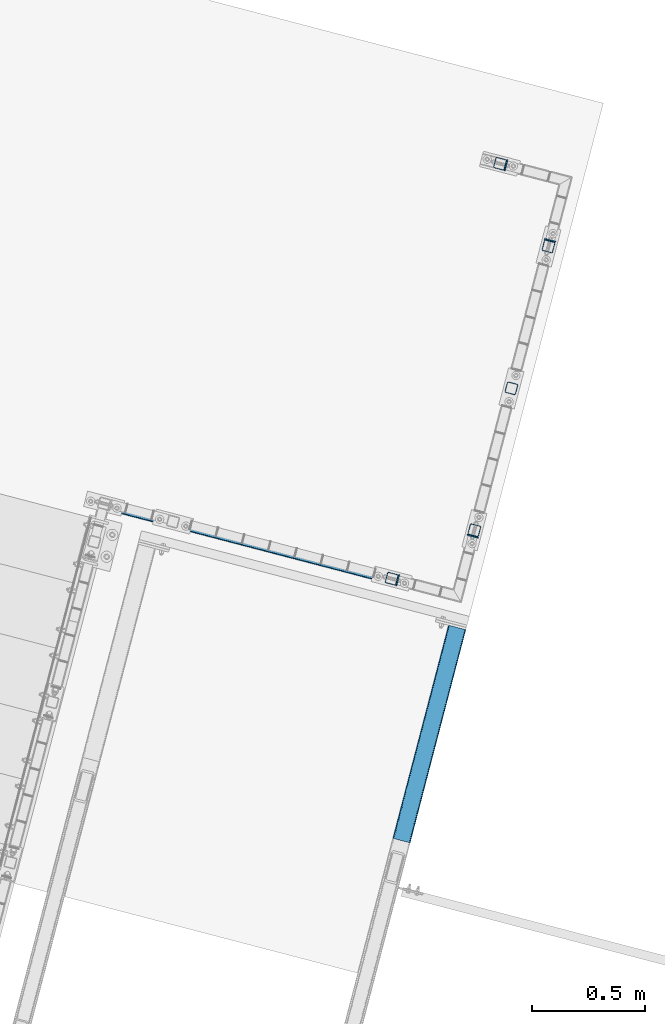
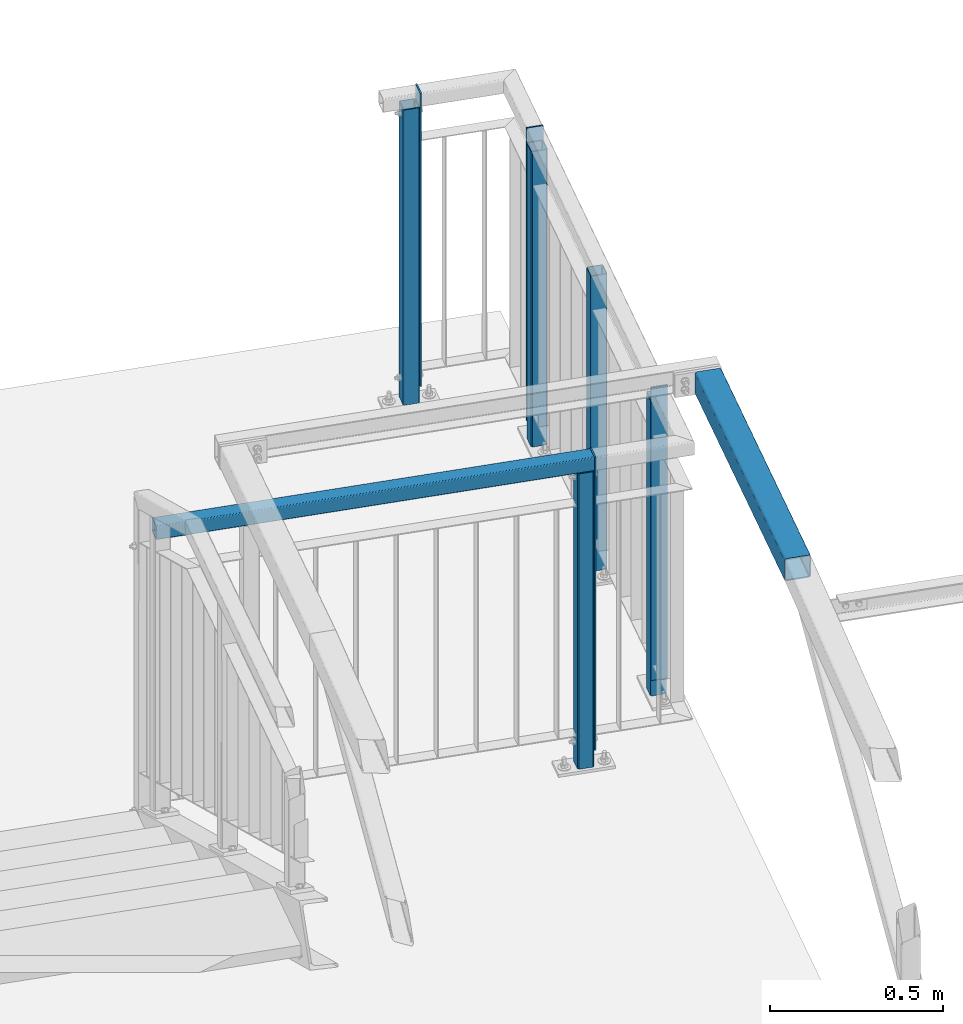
# One storey, part 52 of 169: 11 discrete accessories, 2 elements without a shape of their own.
"""IFC2X3 building model written with IfcOpenShell, lengths in millimetres."""

from ifc_helpers import new_model, si_unit, frame, origin_with_axes, origin_2d_with_axis, place, context, subcontext, project, spatial, polyline, hollow_rectangle, outline, extrude, clip, halfspace, material, type_object, element, aggregate, save


model = new_model("IFC2X3")

# Units and contexts
model_context = context("Model", 3, precision=1e-05, world=origin_with_axes())
body_context = subcontext(model_context, "Body", "Model", "MODEL_VIEW")
ifc_project = project(units=[si_unit("LENGTHUNIT", "METRE", prefix="MILLI"), si_unit("AREAUNIT", "SQUARE_METRE"), si_unit("VOLUMEUNIT", "CUBIC_METRE"), si_unit("MASSUNIT", "GRAM", prefix="KILO"), si_unit("TIMEUNIT", "SECOND"), si_unit("PLANEANGLEUNIT", "RADIAN"), si_unit("SOLIDANGLEUNIT", "STERADIAN"), si_unit("THERMODYNAMICTEMPERATUREUNIT", "DEGREE_CELSIUS"), si_unit("LUMINOUSINTENSITYUNIT", "LUMEN")], contexts=[model_context])

# Site, building, storey
site_placement = place(None, origin_with_axes())
site = spatial("IfcSite", under=ifc_project, at=site_placement, Name="Undefined", CompositionType="ELEMENT")
building_placement = place(site_placement, origin_with_axes())
building = spatial("IfcBuilding", under=site, at=building_placement, Name="Undefined", CompositionType="ELEMENT")
storey_placement = place(building_placement, origin_with_axes())
storey = spatial("IfcBuildingStorey", under=building, at=storey_placement, Name="Undefined", CompositionType="ELEMENT", Elevation=0.0)

# Assembly, discrete accessories
assembly_1_placement = place(storey_placement, origin_with_axes())
assembly_1 = element("IfcElementAssembly", 1, at=assembly_1_placement, inside=storey, Name="Steel Assembly", AssemblyPlace="NOTDEFINED", PredefinedType="RIGID_FRAME")
ifc_material = material(Name="STEEL/S235")
discrete_accessory_type_1 = type_object("IfcDiscreteAccessoryType", Name="BLACHA")
discrete_accessory_1_placement = place(assembly_1_placement, frame((-6978.9408524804, 20785.2009043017, 12633.418376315), z_axis=(0.252628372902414, 0.967563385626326, 0.0), x_axis=(-0.967563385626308, 0.252628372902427, -1.72000000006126e-07)))
discrete_accessory_1 = element("IfcDiscreteAccessory", 2, at=discrete_accessory_1_placement, type_object=discrete_accessory_type_1, material=ifc_material, Name="BLACHA", ObjectType="BL5*50", context=body_context, shape_type="SweptSolid", body=[
    extrude(outline(polyline([(0.0, 0.0), (50.0000000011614, 3.27418092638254e-11), (50.0000000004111, 1032.0), (2.92602635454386e-08, 1032.0), (0.0, 0.0)])), frame((6.80888809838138e-19, -2.87858853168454e-21, -2.49999999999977), z_axis=(0.0, 0.0, 1.0), x_axis=(1.0, 0.0, 0.0)), (0.0, 0.0, 1.0), 5.0),
])
discrete_accessory_2_placement = place(assembly_1_placement, frame((-7341.94790051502, 20572.507738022, 12633.418376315), z_axis=(0.967563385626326, -0.252628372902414, 0.0), x_axis=(0.252628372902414, 0.967563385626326, 0.0)))
discrete_accessory_2 = element("IfcDiscreteAccessory", 3, at=discrete_accessory_2_placement, type_object=discrete_accessory_type_1, material=ifc_material, Name="BLACHA", ObjectType="BL5*50", context=body_context, shape_type="SweptSolid", body=[
    extrude(outline(polyline([(0.0, 0.0), (50.0000000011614, 3.27418092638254e-11), (50.0000000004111, 1032.0), (2.92602635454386e-08, 1032.0), (0.0, 0.0)])), frame((6.80888809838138e-19, -2.87858853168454e-21, -2.49999999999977), z_axis=(0.0, 0.0, 1.0), x_axis=(1.0, 0.0, 0.0)), (0.0, 0.0, 1.0), 5.0),
])
discrete_accessory_3_placement = place(assembly_1_placement, frame((-6637.13233355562, 22094.3230903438, 12633.418376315), z_axis=(0.252628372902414, 0.967563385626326, 0.0), x_axis=(-0.967563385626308, 0.252628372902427, -1.72000000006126e-07)))
discrete_accessory_3 = element("IfcDiscreteAccessory", 4, at=discrete_accessory_3_placement, type_object=discrete_accessory_type_1, material=ifc_material, Name="BLACHA", ObjectType="BL5*50", context=body_context, shape_type="SweptSolid", body=[
    extrude(outline(polyline([(0.0, 0.0), (50.0000000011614, 3.27418092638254e-11), (50.0000000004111, 1032.0), (2.92602635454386e-08, 1032.0), (0.0, 0.0)])), frame((6.80888809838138e-19, -2.87858853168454e-21, -2.49999999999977), z_axis=(0.0, 0.0, 1.0), x_axis=(1.0, 0.0, 0.0)), (0.0, 0.0, 1.0), 5.0),
])
discrete_accessory_4_placement = place(assembly_1_placement, frame((-6849.82549973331, 22457.3301384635, 12633.418376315), z_axis=(-0.967563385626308, 0.252628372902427, -1.72000000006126e-07), x_axis=(-0.252628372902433, -0.967563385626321, 0.0)))
discrete_accessory_4 = element("IfcDiscreteAccessory", 5, at=discrete_accessory_4_placement, type_object=discrete_accessory_type_1, material=ifc_material, Name="BLACHA", ObjectType="BL5*50", context=body_context, shape_type="SweptSolid", body=[
    extrude(outline(polyline([(0.0, 0.0), (50.0000000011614, 3.27418092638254e-11), (50.0000000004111, 1032.0), (2.92602635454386e-08, 1032.0), (0.0, 0.0)])), frame((6.80888809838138e-19, -2.87858853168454e-21, -2.49999999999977), z_axis=(0.0, 0.0, 1.0), x_axis=(1.0, 0.0, 0.0)), (0.0, 0.0, 1.0), 5.0),
])

# Assembly, discrete accessory
assembly_2_placement = place(storey_placement, origin_with_axes())
assembly_2 = element("IfcElementAssembly", 6, at=assembly_2_placement, inside=storey, Name="Steel Assembly", AssemblyPlace="NOTDEFINED", PredefinedType="RIGID_FRAME")
discrete_accessory_type_2 = type_object("IfcDiscreteAccessoryType", Name="BEAM")
discrete_accessory_5_placement = place(assembly_2_placement, frame((-7318.65403919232, 19444.5105502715, 13950.417607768), z_axis=(-2.54700353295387e-10, 0.0, -1.0), x_axis=(0.252628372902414, 0.967563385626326, 0.0)))
discrete_accessory_5 = element("IfcDiscreteAccessory", 7, at=discrete_accessory_5_placement, type_object=discrete_accessory_type_2, material=ifc_material, Name="BEAM", ObjectType="SHS80*4", context=body_context, shape_type="Clipping", body=[
    clip(clip(extrude(hollow_rectangle(XDim=80.0, YDim=80.0, WallThickness=4.0, InnerFilletRadius=4.0, OuterFilletRadius=8.0, at=origin_2d_with_axis()), frame((974.832227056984, -3.58386474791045e-12, 0.0), z_axis=(-1.0, -3.46944695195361e-18, -1.38777878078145e-17), x_axis=(1.73472347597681e-18, -1.0, 0.0)), (0.0, 0.0, 1.0), 1014.34), halfspace(frame((974.832227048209, 5.05679054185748e-10, 40.0), z_axis=(-1.0, -3.46944695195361e-18, -1.38777878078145e-17), x_axis=(1.73472347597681e-18, -1.0, 0.0)), True)), halfspace(frame((1.02154190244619e-05, 0.00025891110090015, -40.0002588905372), z_axis=(-0.999688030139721, -1.62913579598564e-07, 0.0249768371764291), x_axis=(-1.25063525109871e-09, 0.999999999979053, 6.47253026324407e-06)), False)),
])
aggregate(assembly_2, [discrete_accessory_5])

# Discrete accessory
discrete_accessory_type_3 = type_object("IfcDiscreteAccessoryType", Name="PORĘCZ")
discrete_accessory_6_placement = place(assembly_1_placement, frame((-7338.05109963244, 20597.3283936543, 13640.4183763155), z_axis=(-0.252628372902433, -0.967563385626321, 0.0), x_axis=(-0.967563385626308, 0.252628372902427, -1.72000000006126e-07)))
discrete_accessory_6 = element("IfcDiscreteAccessory", 8, at=discrete_accessory_6_placement, type_object=discrete_accessory_type_3, material=ifc_material, Name="PORĘCZ", ObjectType="RHS50*3", context=body_context, shape_type="Clipping", body=[
    clip(extrude(hollow_rectangle(XDim=50.0, YDim=50.0, WallThickness=3.0, InnerFilletRadius=3.0, OuterFilletRadius=6.0, at=origin_2d_with_axis()), frame((1310.08209043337, 1.81898940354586e-12, 0.0), z_axis=(-1.0, -3.46944695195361e-18, -1.38777878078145e-17), x_axis=(1.73472347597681e-18, -1.0, 0.0)), (0.0, 0.0, 1.0), 1310.08), halfspace(frame((1310.08209043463, 1.81898940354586e-12, 999.999999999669), z_axis=(-1.0, -3.46944695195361e-18, -1.38777878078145e-17), x_axis=(1.73472347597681e-18, -1.0, 0.0)), True)),
])

discrete_accessory_type_4 = type_object("IfcDiscreteAccessoryType", Name="STANCHION")
discrete_accessory_7_placement = place(assembly_1_placement, frame((-6832.22567754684, 21446.077706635, 12555.4183763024), z_axis=(0.0, 0.0, 1.0), x_axis=(0.967563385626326, -0.252628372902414, 0.0)))
discrete_accessory_7 = element("IfcDiscreteAccessory", 9, at=discrete_accessory_7_placement, type_object=discrete_accessory_type_4, material=ifc_material, Name="STANCHION", ObjectType="SHS50*3", context=body_context, shape_type="Clipping", body=[
    clip(clip(extrude(hollow_rectangle(XDim=50.0, YDim=50.0, WallThickness=3.0, InnerFilletRadius=3.0, OuterFilletRadius=6.0, at=origin_2d_with_axis()), frame((0.0, 0.0, 1060.00000001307), z_axis=(-2.54700353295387e-10, 0.0, -1.0), x_axis=(0.0, 1.0, 0.0)), (0.0, 0.0, 1.0), 1040.0), halfspace(frame((999.999999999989, -2.80124368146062e-10, 1060.00000001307), z_axis=(-2.54700353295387e-10, 0.0, -1.0), x_axis=(0.0, 1.0, 0.0)), True)), halfspace(frame((-25.0000000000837, -4.72937244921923e-11, 20.0000001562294), z_axis=(0.0, 0.0, 1.0), x_axis=(0.0, 1.0, 0.0)), True)),
])

discrete_accessory_8_placement = place(assembly_1_placement, frame((-6996.18265672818, 20818.1246067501, 12555.4183763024), z_axis=(0.0, 0.0, 1.0), x_axis=(0.967563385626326, -0.252628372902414, 0.0)))
discrete_accessory_8 = element("IfcDiscreteAccessory", 10, at=discrete_accessory_8_placement, type_object=discrete_accessory_type_4, material=ifc_material, Name="STANCHION", ObjectType="SHS50*3", context=body_context, shape_type="Clipping", body=[
    clip(clip(extrude(hollow_rectangle(XDim=50.0, YDim=50.0, WallThickness=3.0, InnerFilletRadius=3.0, OuterFilletRadius=6.0, at=origin_2d_with_axis()), frame((0.0, 0.0, 1060.00000001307), z_axis=(-2.54700353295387e-10, 0.0, -1.0), x_axis=(0.0, 1.0, 0.0)), (0.0, 0.0, 1.0), 1040.0), halfspace(frame((999.999999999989, -2.80124368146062e-10, 1060.00000001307), z_axis=(-2.54700353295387e-10, 0.0, -1.0), x_axis=(0.0, 1.0, 0.0)), True)), halfspace(frame((-25.0000000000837, -4.72937244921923e-11, 20.0000001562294), z_axis=(0.0, 0.0, 1.0), x_axis=(0.0, 1.0, 0.0)), True)),
])

discrete_accessory_9_placement = place(assembly_1_placement, frame((-7362.24018429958, 20603.6441028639, 12555.4183763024), z_axis=(0.0, 0.0, 1.0), x_axis=(-0.252628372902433, -0.967563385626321, 0.0)))
discrete_accessory_9 = element("IfcDiscreteAccessory", 11, at=discrete_accessory_9_placement, type_object=discrete_accessory_type_4, material=ifc_material, Name="STANCHION", ObjectType="SHS50*3", context=body_context, shape_type="Clipping", body=[
    clip(clip(extrude(hollow_rectangle(XDim=50.0, YDim=50.0, WallThickness=3.0, InnerFilletRadius=3.0, OuterFilletRadius=6.0, at=origin_2d_with_axis()), frame((0.0, 0.0, 1060.00000001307), z_axis=(-2.54700353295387e-10, 0.0, -1.0), x_axis=(0.0, 1.0, 0.0)), (0.0, 0.0, 1.0), 1040.0), halfspace(frame((999.999999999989, -2.80124368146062e-10, 1060.00000001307), z_axis=(-2.54700353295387e-10, 0.0, -1.0), x_axis=(0.0, 1.0, 0.0)), True)), halfspace(frame((-25.0000000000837, -4.72937244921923e-11, 20.0000001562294), z_axis=(0.0, 0.0, 1.0), x_axis=(0.0, 1.0, 0.0)), True)),
])

discrete_accessory_10_placement = place(assembly_1_placement, frame((-6668.26869834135, 22074.0308065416, 12555.4183763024), z_axis=(0.0, 0.0, 1.0), x_axis=(0.967563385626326, -0.252628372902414, 0.0)))
discrete_accessory_10 = element("IfcDiscreteAccessory", 12, at=discrete_accessory_10_placement, type_object=discrete_accessory_type_4, material=ifc_material, Name="STANCHION", ObjectType="SHS50*3", context=body_context, shape_type="Clipping", body=[
    clip(clip(extrude(hollow_rectangle(XDim=50.0, YDim=50.0, WallThickness=3.0, InnerFilletRadius=3.0, OuterFilletRadius=6.0, at=origin_2d_with_axis()), frame((0.0, 0.0, 1060.00000001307), z_axis=(-2.54700353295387e-10, 0.0, -1.0), x_axis=(0.0, 1.0, 0.0)), (0.0, 0.0, 1.0), 1040.0), halfspace(frame((999.999999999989, -2.80124368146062e-10, 1060.00000001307), z_axis=(-2.54700353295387e-10, 0.0, -1.0), x_axis=(0.0, 1.0, 0.0)), True)), halfspace(frame((-25.0000000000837, -4.72937244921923e-11, 20.0000001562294), z_axis=(0.0, 0.0, 1.0), x_axis=(0.0, 1.0, 0.0)), True)),
])

discrete_accessory_11_placement = place(assembly_1_placement, frame((-6882.74920213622, 22440.0883341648, 12555.4183763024), z_axis=(0.0, 0.0, 1.0), x_axis=(0.252628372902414, 0.967563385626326, 0.0)))
discrete_accessory_11 = element("IfcDiscreteAccessory", 13, at=discrete_accessory_11_placement, type_object=discrete_accessory_type_4, material=ifc_material, Name="STANCHION", ObjectType="SHS50*3", context=body_context, shape_type="Clipping", body=[
    clip(clip(extrude(hollow_rectangle(XDim=50.0, YDim=50.0, WallThickness=3.0, InnerFilletRadius=3.0, OuterFilletRadius=6.0, at=origin_2d_with_axis()), frame((0.0, 0.0, 1060.00000001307), z_axis=(-2.54700353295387e-10, 0.0, -1.0), x_axis=(0.0, 1.0, 0.0)), (0.0, 0.0, 1.0), 1040.0), halfspace(frame((999.999999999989, -2.80124368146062e-10, 1060.00000001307), z_axis=(-2.54700353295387e-10, 0.0, -1.0), x_axis=(0.0, 1.0, 0.0)), True)), halfspace(frame((-25.0000000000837, -4.72937244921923e-11, 20.0000001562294), z_axis=(0.0, 0.0, 1.0), x_axis=(0.0, 1.0, 0.0)), True)),
])

aggregate(assembly_1, [discrete_accessory_7, discrete_accessory_1, discrete_accessory_2, discrete_accessory_8, discrete_accessory_9, discrete_accessory_6, discrete_accessory_3, discrete_accessory_4, discrete_accessory_10, discrete_accessory_11])

save(model, "model.ifc")
